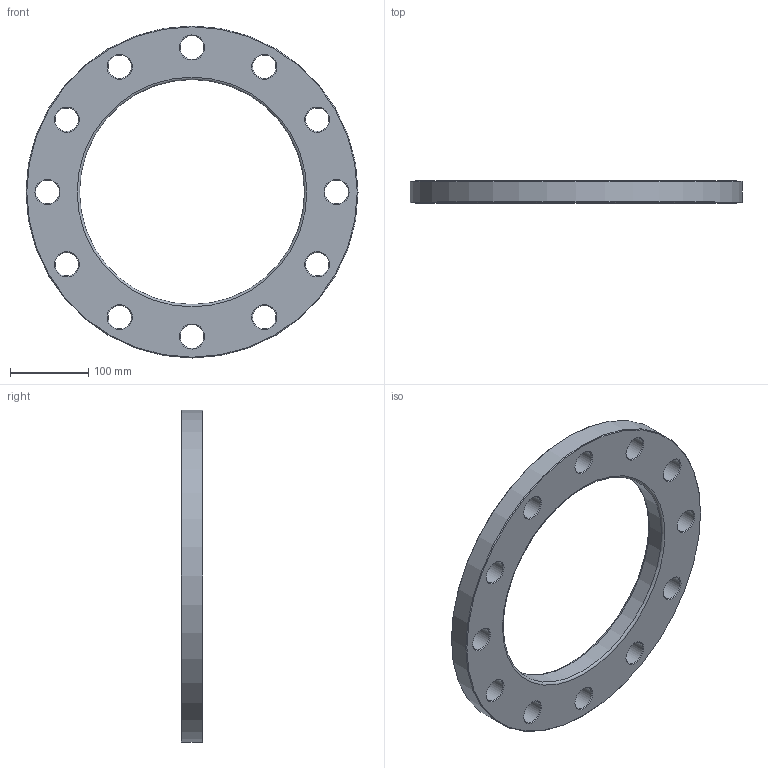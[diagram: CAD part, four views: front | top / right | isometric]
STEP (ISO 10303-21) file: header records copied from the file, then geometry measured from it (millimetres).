
FILE_DESCRIPTION(/* description */ ('Unknown'),/* implementation_level */ '2;1');
FILE_NAME(/* name */ 'FZ250H',/* time_stamp */ '2021-03-15T12:51:27+01:00',/* author */ ('Unknown'),/* organization */ ('Unknown'),/* preprocessor_version */ 'ST-DEVELOPER v16.7',/* originating_system */ 'Solid Edge',/* authorisation */ 'Unknown');
FILE_SCHEMA (('AUTOMOTIVE_DESIGN {1 0 10303 214 3 1 1}'));
Length unit declared in the file: millimetre
Products named in the file (1): FZ250H
Bounding box: 425 x 28 x 425 mm (x, y, z)
Volume: 1904612.5 mm3; surface area: 225675.7 mm2
Topology: 1 solids, 1 shells, 44 faces, 134 edges, 92 vertices
Faces by surface type: cone 26, cylinder 14, plane 2, torus 2
Full cylindrical faces by diameter (mm): 30 x12, 288 x1, 425 x1
Entity records: 1086 total; most frequent: DIRECTION 202, CARTESIAN_POINT 157, ORIENTED_EDGE 112, EDGE_LOOP 112, FACE_BOUND 112, AXIS2_PLACEMENT_3D 101, EDGE_CURVE 56, VERTEX_POINT 56
